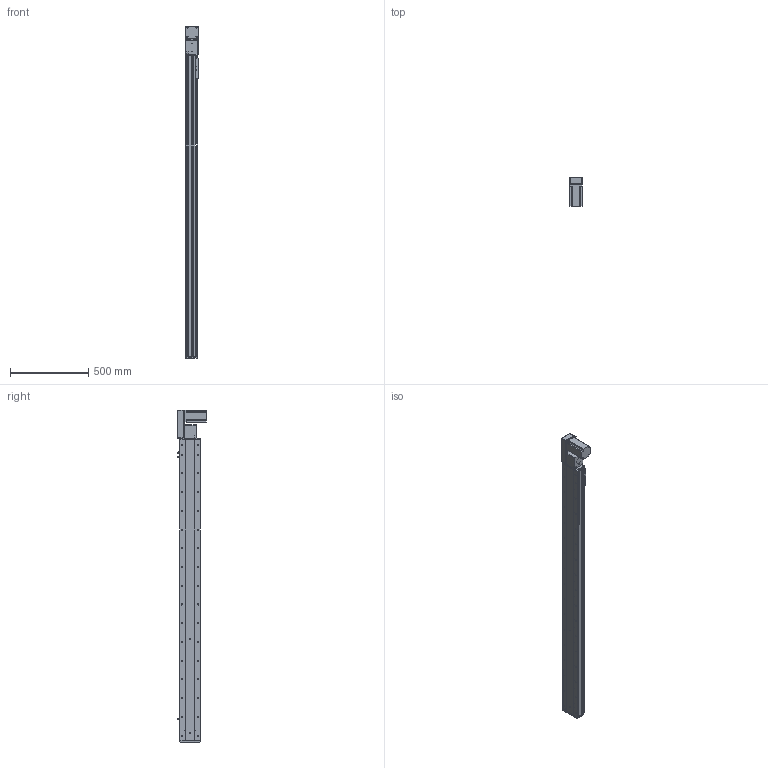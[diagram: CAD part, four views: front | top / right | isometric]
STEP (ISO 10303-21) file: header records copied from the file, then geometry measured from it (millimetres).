
FILE_DESCRIPTION (( 'STEP AP214' ), '1' );
FILE_NAME ('KSD130B-S1700-MRB-CM.STEP', '2019-09-21T07:20:35', ( '微软用户' ), ( '微软中国' ), 'SwSTEP 2.0', 'SolidWorks 2014', '' );
FILE_SCHEMA (( 'AUTOMOTIVE_DESIGN' ));
Length unit declared in the file: millimetre
Products named in the file (12): 台达ECMA－C20807AS伺服电机; 130宽模组保护罩上下左右折-同步带; 130宽模组马达安装板连板左右折同步带; 覜茼え100遵圉猾敕; U倰嫖萇EEㄜSX672; 130宽盖板半封闭同步带-1700行程; 130宽马达安装板同步带右-改镜向_默认<按加工>; 130宽马达安装板同步带半封闭; 130宽同步带安装座半封闭; 130宽端盖同步带半封闭; 130宽底板半封闭同步带-1700行程; KSD130B-S1700-MRB-CM
Assembly tree (13 placements, depth 2):
  KSD130B-S1700-MRB-CM
    130宽底板半封闭同步带-1700行程
    130宽端盖同步带半封闭
    130宽同步带安装座半封闭
    130宽马达安装板同步带半封闭
    130宽马达安装板同步带右-改镜向_默认<按加工>
    130宽盖板半封闭同步带-1700行程
    U倰嫖萇EEㄜSX672  x3
    覜茼え100遵圉猾敕
    130宽模组马达安装板连板左右折同步带
    130宽模组保护罩上下左右折-同步带
    台达ECMA－C20807AS伺服电机
Bounding box: 81 x 184.8 x 2127 mm (x, y, z)
Volume: 6875871 mm3; surface area: 1941479 mm2
Topology: 14 solids, 14 shells, 1719 faces, 5001 edges, 3171 vertices
Faces by surface type: cylinder 846, plane 650, cone 223
Entity records: 58547 total; most frequent: CARTESIAN_POINT 11324, DIRECTION 8819, ORIENTED_EDGE 8542, EDGE_CURVE 4271, AXIS2_PLACEMENT_3D 3246, VERTEX_POINT 2795, VECTOR 2327, LINE 2327
